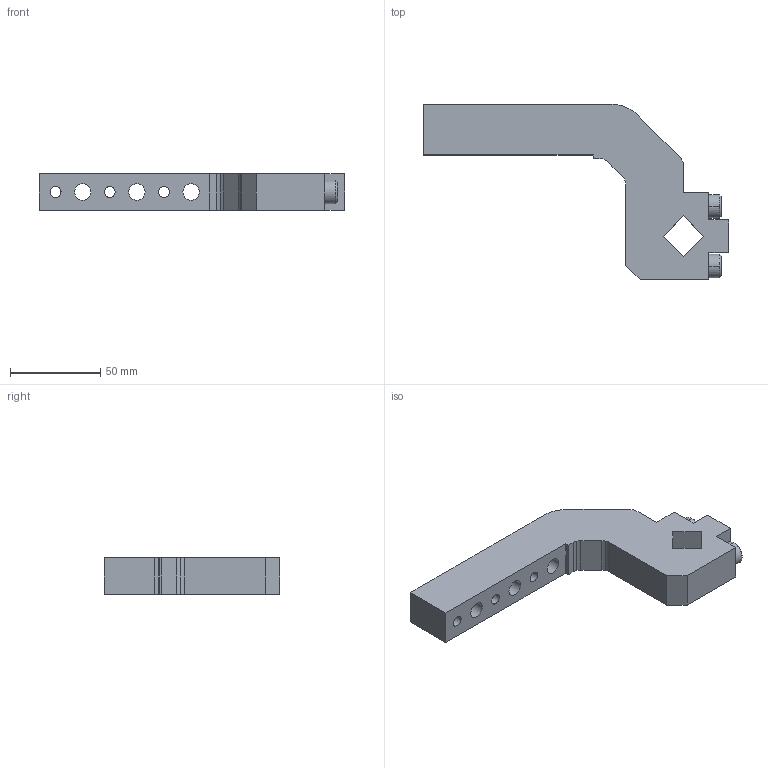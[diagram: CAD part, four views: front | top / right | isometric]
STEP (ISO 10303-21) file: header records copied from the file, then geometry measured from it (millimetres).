
FILE_DESCRIPTION((''),'2;1');
FILE_NAME('S:\Matthew\Step Files\XM Clamp Arms\XJ50-03.stp','2006-06-28T08:08:00',('Matthew'),(''),'Autodesk Inventor 8','Autodesk Inventor 8','');
FILE_SCHEMA(('AUTOMOTIVE_DESIGN { 1 0 10303 214 1 1 1 1 }'));
Length unit declared in the file: millimetre
Products named in the file (1): XJ50-03
Bounding box: 169 x 97 x 20 mm (x, y, z)
Volume: 122265.4 mm3; surface area: 28319.7 mm2
Topology: 1 solids, 1 shells, 67 faces, 179 edges, 118 vertices
Faces by surface type: plane 39, cylinder 24, cone 4
Entity records: 2144 total; most frequent: DIRECTION 367, CARTESIAN_POINT 365, ORIENTED_EDGE 358, EDGE_CURVE 179, VECTOR 127, LINE 127, AXIS2_PLACEMENT_3D 120, VERTEX_POINT 118
